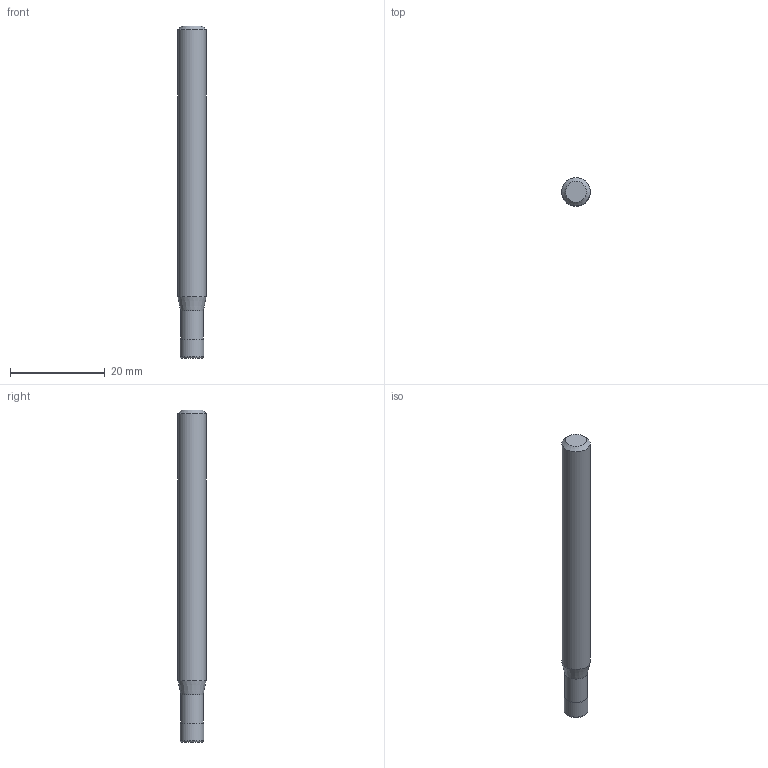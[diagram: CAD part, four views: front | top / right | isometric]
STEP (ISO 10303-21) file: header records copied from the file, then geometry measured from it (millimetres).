
FILE_DESCRIPTION((''),'2;1');
FILE_NAME('C:\Users\nsx150\AppData\Local\Temp\Mastercam 2021\CSMVKW3037\TEMP.step','2023-06-23T16:04:57',(''),(''),'STEP Write','Mastercam 2021 ... CNC Software, Inc.','');
FILE_SCHEMA(('AUTOMOTIVE_DESIGN'));
Length unit declared in the file: millimetre
Products named in the file (1): None
Bounding box: 6 x 6 x 70 mm (x, y, z)
Volume: 1859.4 mm3; surface area: 1352.2 mm2
Topology: 2 solids, 2 shells, 10 faces, 14 edges, 8 vertices
Faces by surface type: plane 4, cylinder 3, cone 2, torus 1
Full cylindrical faces by diameter (mm): 4.75 x1, 5 x1, 6 x1
Entity records: 232 total; most frequent: DIRECTION 40, CARTESIAN_POINT 28, AXIS2_PLACEMENT_3D 20, ORIENTED_EDGE 16, EDGE_LOOP 16, STYLED_ITEM 13, ADVANCED_FACE 10, FACE_BOUND 10
